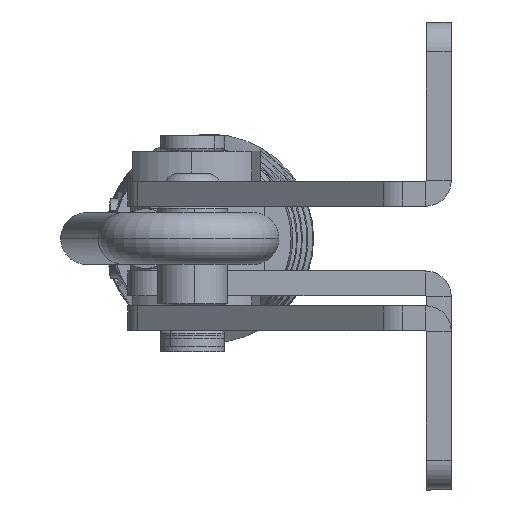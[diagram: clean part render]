
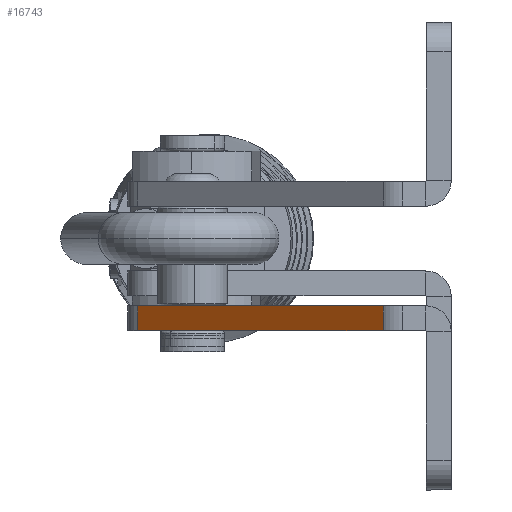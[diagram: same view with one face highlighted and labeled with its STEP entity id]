
A CAD part, left-side view. The second image highlights one B-rep face of the part: STEP entity #16743.
In plain terms, the highlighted planar face has unit normal (-0.748, 0.663, 0) as drawn and (0.748, 0.663, 0) by its records, which use the part's own axes.
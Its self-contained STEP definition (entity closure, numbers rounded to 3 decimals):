
#937 = LINE ( 'NONE', #5326, #10172 ) ;
#1324 = PLANE ( 'NONE',  #16087 ) ;
#2788 = ORIENTED_EDGE ( 'NONE', *, *, #28634, .T. ) ;
#3027 = VECTOR ( 'NONE', #20805, 1000. ) ;
#3952 = EDGE_CURVE ( 'NONE', #26815, #4203, #22839, .T. ) ;
#4203 = VERTEX_POINT ( 'NONE', #9562 ) ;
#5326 = CARTESIAN_POINT ( 'NONE',  ( 10., 32.5, -2.5 ) ) ;
#5766 = CARTESIAN_POINT ( 'NONE',  ( 10., 32.5, 0. ) ) ;
#9038 = ORIENTED_EDGE ( 'NONE', *, *, #13848, .T. ) ;
#9288 = EDGE_CURVE ( 'NONE', #26815, #21684, #23975, .T. ) ;
#9562 = CARTESIAN_POINT ( 'NONE',  ( 32.745, 6.852, -2.5 ) ) ;
#10172 = VECTOR ( 'NONE', #14851, 1000. ) ;
#10396 = CARTESIAN_POINT ( 'NONE',  ( 10., 32.5, -2.5 ) ) ;
#11560 = CARTESIAN_POINT ( 'NONE',  ( 10.895, 31.49, -2.5 ) ) ;
#12686 = FACE_OUTER_BOUND ( 'NONE', #12752, .T. ) ;
#12752 = EDGE_LOOP ( 'NONE', ( #27511, #29822, #9038, #2788 ) ) ;
#13848 = EDGE_CURVE ( 'NONE', #4203, #23082, #937, .T. ) ;
#14851 = DIRECTION ( 'NONE',  ( -0.663, 0.748, 0. ) ) ;
#16087 = AXIS2_PLACEMENT_3D ( 'NONE', #10396, #21787, #21940 ) ;
#16153 = CARTESIAN_POINT ( 'NONE',  ( 32.745, 6.852, -2.5 ) ) ;
#16681 = DIRECTION ( 'NONE',  ( -0.663, 0.748, 0. ) ) ;
#16743 = ADVANCED_FACE ( 'NONE', ( #12686 ), #1324, .T. ) ;
#17982 = DIRECTION ( 'NONE',  ( 0., 0., -1. ) ) ;
#20805 = DIRECTION ( 'NONE',  ( 0., 0., 1. ) ) ;
#21684 = VERTEX_POINT ( 'NONE', #23309 ) ;
#21787 = DIRECTION ( 'NONE',  ( 0.748, 0.663, 0. ) ) ;
#21940 = DIRECTION ( 'NONE',  ( -0.663, 0.748, 0. ) ) ;
#22636 = LINE ( 'NONE', #11560, #3027 ) ;
#22839 = LINE ( 'NONE', #16153, #24692 ) ;
#23082 = VERTEX_POINT ( 'NONE', #27390 ) ;
#23140 = VECTOR ( 'NONE', #16681, 1000. ) ;
#23309 = CARTESIAN_POINT ( 'NONE',  ( 10.895, 31.49, 0. ) ) ;
#23975 = LINE ( 'NONE', #5766, #23140 ) ;
#24692 = VECTOR ( 'NONE', #17982, 1000. ) ;
#26059 = CARTESIAN_POINT ( 'NONE',  ( 32.745, 6.852, 0. ) ) ;
#26815 = VERTEX_POINT ( 'NONE', #26059 ) ;
#27390 = CARTESIAN_POINT ( 'NONE',  ( 10.895, 31.49, -2.5 ) ) ;
#27511 = ORIENTED_EDGE ( 'NONE', *, *, #9288, .F. ) ;
#28634 = EDGE_CURVE ( 'NONE', #23082, #21684, #22636, .T. ) ;
#29822 = ORIENTED_EDGE ( 'NONE', *, *, #3952, .T. ) ;
